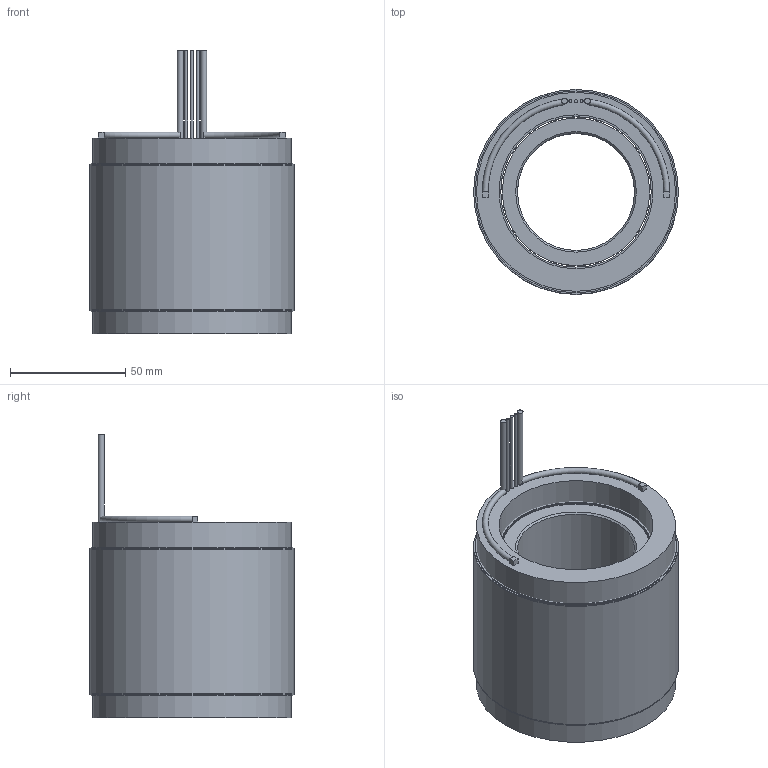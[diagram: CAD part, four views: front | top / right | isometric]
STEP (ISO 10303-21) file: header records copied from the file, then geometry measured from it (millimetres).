
FILE_DESCRIPTION (( 'STEP AP214' ), '1' );
FILE_NAME ('6100378-04.STEP', '2020-06-23T15:57:02', ( '' ), ( '' ), 'SwSTEP 2.0', 'SolidWorks 2016', '' );
FILE_SCHEMA (( 'AUTOMOTIVE_DESIGN' ));
Length unit declared in the file: inch
Products named in the file (10): 4450187-XX_4450187-04; 4400100-00; 4600562-00; 4500552-XX_4500552-04; comp4500552-XX(COIL)_comp4500552-04(COIL); 4250372-XX_4250372-04; 6100378-04; 4150176-XX_4150176-04
Assembly tree (10 placements, depth 4):
  6100378-04
    4500552-XX_4500552-04
      4450187-XX_4450187-04
        4450187-XX_4450187-04
        4400100-00
        4400100-00
        4600562-00  x2
      comp4500552-XX(COIL)_comp4500552-04(COIL)
    4250372-XX_4250372-04
      4150176-XX_4150176-04
Bounding box: 88.9 x 88.9 x 122.94 mm (x, y, z)
Volume: 460633.5 mm3; surface area: 131883.4 mm2
Topology: 11 solids, 11 shells, 58 faces, 91 edges, 60 vertices
Faces by surface type: plane 35, cylinder 19, torus 2, cone 2
Full cylindrical faces by diameter (mm): 1.27 x3, 2.54 x2, 50.8 x1, 64.008 x1, 65.278 x5, 66.801 x1, 86.36 x1, 87.63 x2, 88.9 x3
Entity records: 1612 total; most frequent: DIRECTION 244, CARTESIAN_POINT 190, ORIENTED_EDGE 128, AXIS2_PLACEMENT_3D 110, EDGE_LOOP 92, FACE_OUTER_BOUND 73, EDGE_CURVE 64, VERTEX_POINT 56
